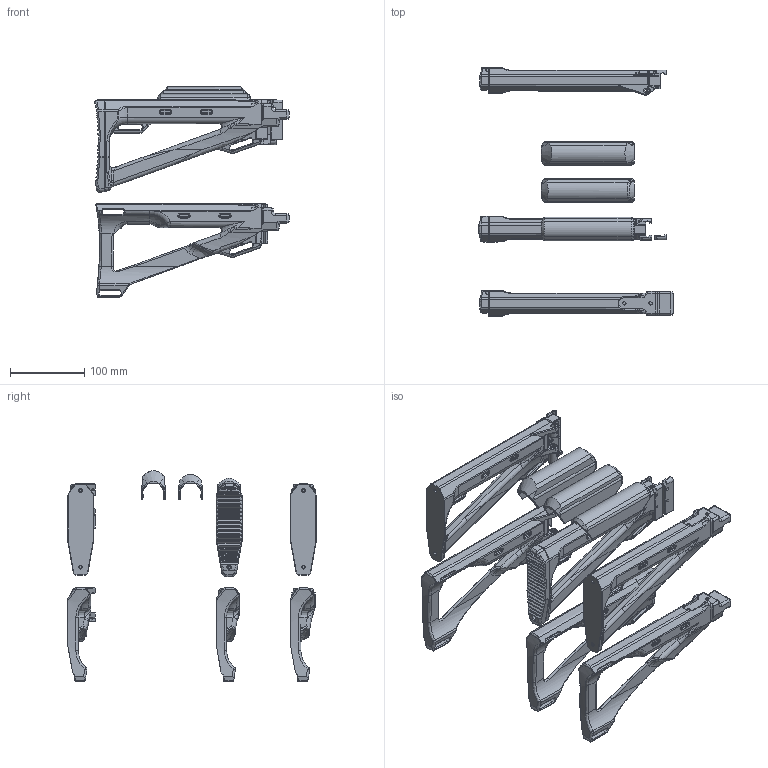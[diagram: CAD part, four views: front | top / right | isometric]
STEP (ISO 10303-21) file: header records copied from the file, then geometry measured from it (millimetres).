
FILE_DESCRIPTION(/* description */ (''),/* implementation_level */ '2;1');
FILE_NAME(/* name */ 'C:/Users/Danny Meatballs PC/Downloads/Stonk v46.step',/* time_stamp */ '2022-06-18T11:41:45-04:00',/* author */ (''),/* organization */ (''),/* preprocessor_version */ 'ST-DEVELOPER v19',/* originating_system */ 'Autodesk Translation Framework v11.7.0.108',/* authorisation */ '');
FILE_SCHEMA (('AUTOMOTIVE_DESIGN { 1 0 10303 214 3 1 1 }'));
Products named in the file (1): Stonk
Bounding box: 261.77 x 334.73 x 283.45 mm (x, y, z)
Volume: 1823049.1 mm3; surface area: 369179.3 mm2
Topology: 17 solids, 17 shells, 2928 faces, 7355 edges, 4423 vertices
Faces by surface type: bspline 996, cylinder 959, plane 619, torus 256, sphere 77, cone 21
Full cylindrical faces by diameter (mm): 3 x4, 3.3 x6, 3.4 x8, 3.5 x4, 4 x4, 4.4 x10, 5.5 x1, 5.8 x1, 6 x8, 8.5 x3
Entity records: 120634 total; most frequent: CARTESIAN_POINT 56220, ORIENTED_EDGE 14612, DIRECTION 11774, EDGE_CURVE 7306, AXIS2_PLACEMENT_3D 4718, VERTEX_POINT 4426, EDGE_LOOP 3028, FACE_OUTER_BOUND 2928
